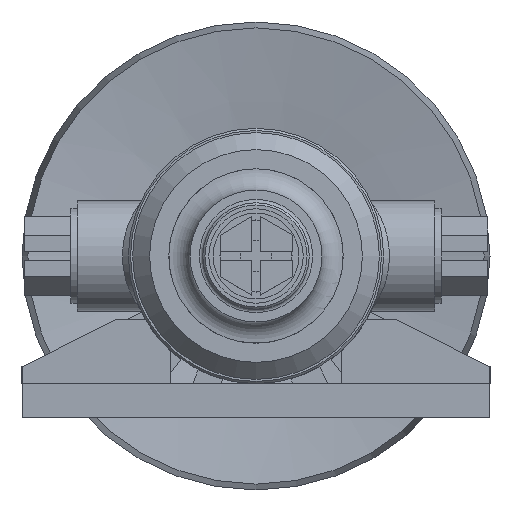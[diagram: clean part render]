
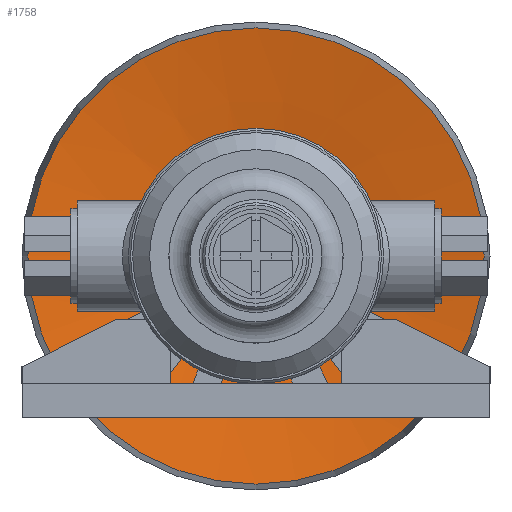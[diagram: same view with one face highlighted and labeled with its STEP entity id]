
A CAD part, left-side view. The second image highlights one B-rep face of the part: STEP entity #1758.
In plain terms, the highlighted conical face has half-angle 80 degrees and reference radius 53.611 mm.
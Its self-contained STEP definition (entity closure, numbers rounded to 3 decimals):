
#1758 = ADVANCED_FACE( '', ( #3238, #3239 ), #3240, .F. );
#3238 = FACE_BOUND( '', #5339, .T. );
#3239 = FACE_OUTER_BOUND( '', #5340, .T. );
#3240 = CONICAL_SURFACE( '', #5341, 53.611, 1.396 );
#5339 = EDGE_LOOP( '', ( #7955 ) );
#5340 = EDGE_LOOP( '', ( #7956 ) );
#5341 = AXIS2_PLACEMENT_3D( '', #7957, #7958, #7959 );
#7955 = ORIENTED_EDGE( '', *, *, #8548, .F. );
#7956 = ORIENTED_EDGE( '', *, *, #8344, .T. );
#7957 = CARTESIAN_POINT( '', ( -13.926, 0., 0. ) );
#7958 = DIRECTION( '', ( -1., 0., 0. ) );
#7959 = DIRECTION( '', ( 0., 0., 1. ) );
#8344 = EDGE_CURVE( '', #9344, #9344, #9345, .T. );
#8548 = EDGE_CURVE( '', #9693, #9693, #9694, .T. );
#9344 = VERTEX_POINT( '', #10693 );
#9345 = CIRCLE( '', #10694, 53.611 );
#9693 = VERTEX_POINT( '', #11798 );
#9694 = CIRCLE( '', #11799, 20. );
#10693 = CARTESIAN_POINT( '', ( -13.926, 0., 53.611 ) );
#10694 = AXIS2_PLACEMENT_3D( '', #14140, #14141, #14142 );
#11798 = CARTESIAN_POINT( '', ( -8., 0., 20. ) );
#11799 = AXIS2_PLACEMENT_3D( '', #14406, #14407, #14408 );
#14140 = CARTESIAN_POINT( '', ( -13.926, 0., 0. ) );
#14141 = DIRECTION( '', ( -1., 0., 0. ) );
#14142 = DIRECTION( '', ( 0., 0., 1. ) );
#14406 = CARTESIAN_POINT( '', ( -8., 0., 0. ) );
#14407 = DIRECTION( '', ( -1., 0., 0. ) );
#14408 = DIRECTION( '', ( 0., 0., 1. ) );
